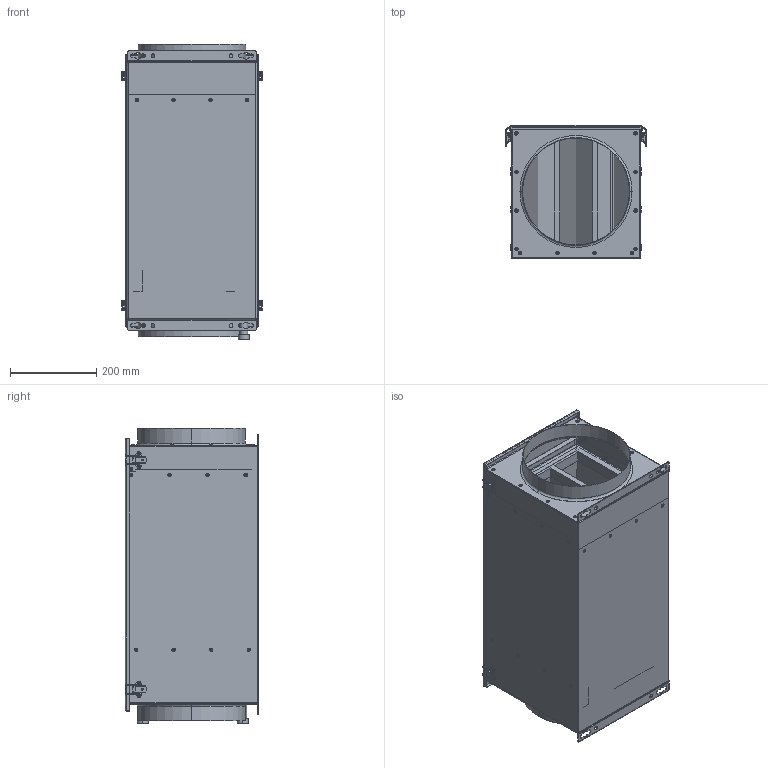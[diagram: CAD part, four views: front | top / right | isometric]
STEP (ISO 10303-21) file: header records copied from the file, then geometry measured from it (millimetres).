
FILE_DESCRIPTION (( 'STEP AP203' ), '1' );
FILE_NAME ('112854-00_FTW250_step.step', '2020-08-26T09:51:18', ( '' ), ( '' ), 'SwSTEP 2.0', 'SolidWorks 2017', '' );
FILE_SCHEMA (( 'CONFIG_CONTROL_DESIGN' ));
Length unit declared in the file: millimetre
Products named in the file (1): 112854-00_FTW250_step
Bounding box: 327.58 x 309.3 x 684 mm (x, y, z)
Surface area: 2375464.2 mm2 (no closed solid volume)
Topology: 0 solids, 128 shells, 945 faces, 3023 edges, 2074 vertices
Faces by surface type: cylinder 442, plane 245, torus 168, bspline 90
Entity records: 35660 total; most frequent: CARTESIAN_POINT 8331, DIRECTION 6382, ORIENTED_EDGE 4704, EDGE_CURVE 3023, AXIS2_PLACEMENT_3D 2581, VERTEX_POINT 2074, CIRCLE 1725, VECTOR 1220
